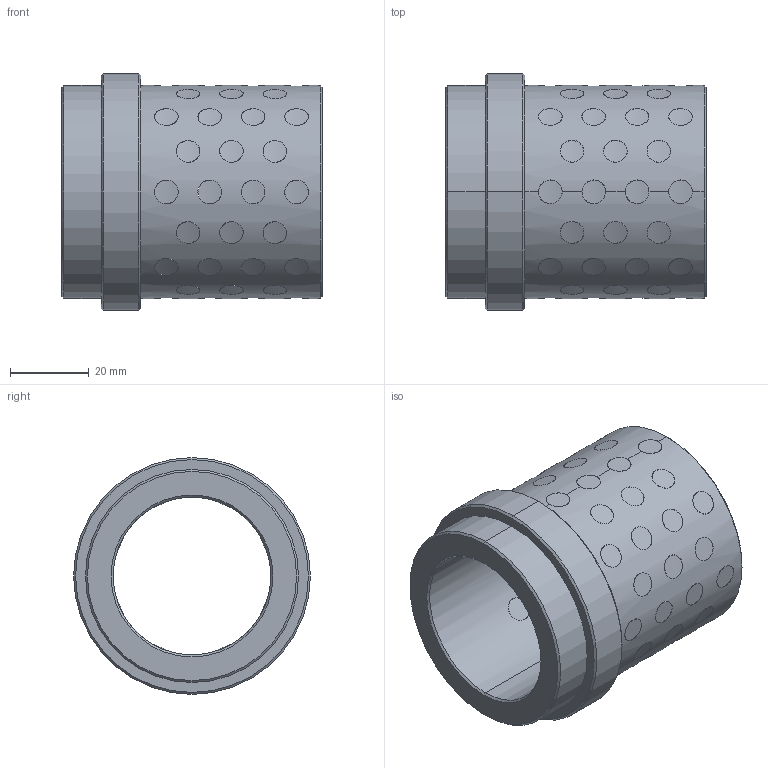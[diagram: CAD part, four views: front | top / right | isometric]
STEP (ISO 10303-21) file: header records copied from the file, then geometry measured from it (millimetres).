
FILE_DESCRIPTION((''),'2;1');
FILE_NAME('G31240056','2017-12-31T',('MANU'),(''),'PRO/ENGINEER BY PARAMETRIC TECHNOLOGY CORPORATION, 2012130','PRO/ENGINEER BY PARAMETRIC TECHNOLOGY CORPORATION, 2012130','');
FILE_SCHEMA(('CONFIG_CONTROL_DESIGN'));
Length unit declared in the file: millimetre
Products named in the file (1): G31240056
Bounding box: 66 x 60 x 60 mm (x, y, z)
Volume: 73283.2 mm3; surface area: 37261.5 mm2
Topology: 57 solids, 57 shells, 360 faces, 768 edges, 508 vertices
Faces by surface type: cylinder 344, cone 12, plane 4
Entity records: 17978 total; most frequent: CARTESIAN_POINT 10916, ORIENTED_EDGE 1536, DIRECTION 1036, EDGE_CURVE 768, VERTEX_POINT 508, B_SPLINE_CURVE_WITH_KNOTS 480, EDGE_LOOP 460, AXIS2_PLACEMENT_3D 388
